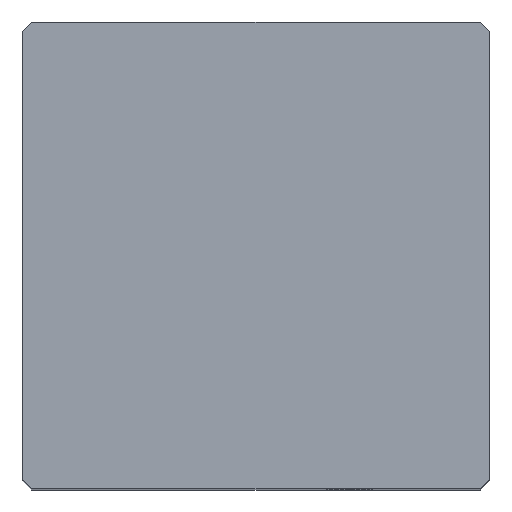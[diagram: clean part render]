
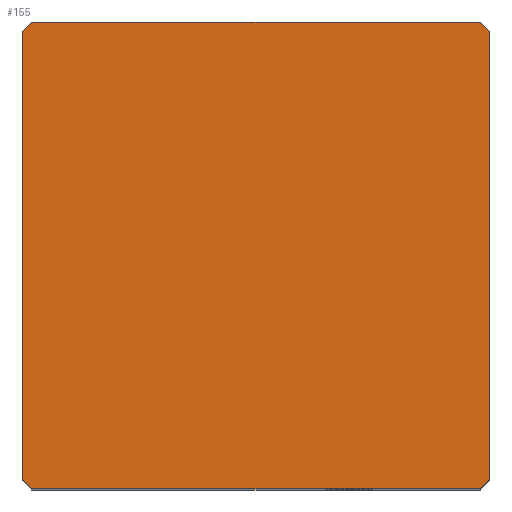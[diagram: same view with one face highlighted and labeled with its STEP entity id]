
A CAD part, top view. The second image highlights one B-rep face of the part: STEP entity #155.
In plain terms, the highlighted planar face has unit normal (0, 0, 1).
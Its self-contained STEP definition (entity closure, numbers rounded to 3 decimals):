
#39 = EDGE_CURVE('',#40,#42,#44,.T.);
#40 = VERTEX_POINT('',#41);
#41 = CARTESIAN_POINT('',(-10.,-9.6,29.25));
#42 = VERTEX_POINT('',#43);
#43 = CARTESIAN_POINT('',(-10.,9.6,29.25));
#44 = SURFACE_CURVE('',#45,(#49,#61),.PCURVE_S1.);
#45 = LINE('',#46,#47);
#46 = CARTESIAN_POINT('',(-10.,-10.,29.25));
#47 = VECTOR('',#48,1.);
#48 = DIRECTION('',(-0.,1.,0.));
#49 = PCURVE('',#50,#55);
#50 = PLANE('',#51);
#51 = AXIS2_PLACEMENT_3D('',#52,#53,#54);
#52 = CARTESIAN_POINT('',(-10.,-10.,0.));
#53 = DIRECTION('',(1.,0.,-0.));
#54 = DIRECTION('',(0.,0.,1.));
#55 = DEFINITIONAL_REPRESENTATION('',(#56),#60);
#56 = LINE('',#57,#58);
#57 = CARTESIAN_POINT('',(29.25,0.));
#58 = VECTOR('',#59,1.);
#59 = DIRECTION('',(0.,-1.));
#60 = ( GEOMETRIC_REPRESENTATION_CONTEXT(2) 
PARAMETRIC_REPRESENTATION_CONTEXT() REPRESENTATION_CONTEXT('2D SPACE',''
  ) );
#61 = PCURVE('',#62,#67);
#62 = PLANE('',#63);
#63 = AXIS2_PLACEMENT_3D('',#64,#65,#66);
#64 = CARTESIAN_POINT('',(-10.,-10.,29.25));
#65 = DIRECTION('',(0.,0.,1.));
#66 = DIRECTION('',(1.,0.,-0.));
#67 = DEFINITIONAL_REPRESENTATION('',(#68),#72);
#68 = LINE('',#69,#70);
#69 = CARTESIAN_POINT('',(0.,0.));
#70 = VECTOR('',#71,1.);
#71 = DIRECTION('',(0.,1.));
#72 = ( GEOMETRIC_REPRESENTATION_CONTEXT(2) 
PARAMETRIC_REPRESENTATION_CONTEXT() REPRESENTATION_CONTEXT('2D SPACE',''
  ) );
#90 = PLANE('',#91);
#91 = AXIS2_PLACEMENT_3D('',#92,#93,#94);
#92 = CARTESIAN_POINT('',(-9.8,-9.8,0.));
#93 = DIRECTION('',(-0.707,-0.707,0.));
#94 = DIRECTION('',(-0.,-0.,-1.));
#144 = PLANE('',#145);
#145 = AXIS2_PLACEMENT_3D('',#146,#147,#148);
#146 = CARTESIAN_POINT('',(-9.8,9.8,0.));
#147 = DIRECTION('',(0.707,-0.707,0.));
#148 = DIRECTION('',(-0.,-0.,-1.));
#155 = ADVANCED_FACE('',(#156),#62,.T.);
#156 = FACE_BOUND('',#157,.T.);
#157 = EDGE_LOOP('',(#158,#159,#182,#210,#238,#266,#294,#322));
#158 = ORIENTED_EDGE('',*,*,#39,.F.);
#159 = ORIENTED_EDGE('',*,*,#160,.T.);
#160 = EDGE_CURVE('',#40,#161,#163,.T.);
#161 = VERTEX_POINT('',#162);
#162 = CARTESIAN_POINT('',(-9.6,-10.,29.25));
#163 = SURFACE_CURVE('',#164,(#168,#175),.PCURVE_S1.);
#164 = LINE('',#165,#166);
#165 = CARTESIAN_POINT('',(-9.8,-9.8,29.25));
#166 = VECTOR('',#167,1.);
#167 = DIRECTION('',(0.707,-0.707,0.));
#168 = PCURVE('',#62,#169);
#169 = DEFINITIONAL_REPRESENTATION('',(#170),#174);
#170 = LINE('',#171,#172);
#171 = CARTESIAN_POINT('',(0.2,0.2));
#172 = VECTOR('',#173,1.);
#173 = DIRECTION('',(0.707,-0.707));
#174 = ( GEOMETRIC_REPRESENTATION_CONTEXT(2) 
PARAMETRIC_REPRESENTATION_CONTEXT() REPRESENTATION_CONTEXT('2D SPACE',''
  ) );
#175 = PCURVE('',#90,#176);
#176 = DEFINITIONAL_REPRESENTATION('',(#177),#181);
#177 = LINE('',#178,#179);
#178 = CARTESIAN_POINT('',(-29.25,0.));
#179 = VECTOR('',#180,1.);
#180 = DIRECTION('',(-0.,1.));
#181 = ( GEOMETRIC_REPRESENTATION_CONTEXT(2) 
PARAMETRIC_REPRESENTATION_CONTEXT() REPRESENTATION_CONTEXT('2D SPACE',''
  ) );
#182 = ORIENTED_EDGE('',*,*,#183,.T.);
#183 = EDGE_CURVE('',#161,#184,#186,.T.);
#184 = VERTEX_POINT('',#185);
#185 = CARTESIAN_POINT('',(9.6,-10.,29.25));
#186 = SURFACE_CURVE('',#187,(#191,#198),.PCURVE_S1.);
#187 = LINE('',#188,#189);
#188 = CARTESIAN_POINT('',(-10.,-10.,29.25));
#189 = VECTOR('',#190,1.);
#190 = DIRECTION('',(1.,0.,-0.));
#191 = PCURVE('',#62,#192);
#192 = DEFINITIONAL_REPRESENTATION('',(#193),#197);
#193 = LINE('',#194,#195);
#194 = CARTESIAN_POINT('',(0.,0.));
#195 = VECTOR('',#196,1.);
#196 = DIRECTION('',(1.,0.));
#197 = ( GEOMETRIC_REPRESENTATION_CONTEXT(2) 
PARAMETRIC_REPRESENTATION_CONTEXT() REPRESENTATION_CONTEXT('2D SPACE',''
  ) );
#198 = PCURVE('',#199,#204);
#199 = PLANE('',#200);
#200 = AXIS2_PLACEMENT_3D('',#201,#202,#203);
#201 = CARTESIAN_POINT('',(-10.,-10.,0.));
#202 = DIRECTION('',(-0.,1.,0.));
#203 = DIRECTION('',(0.,0.,1.));
#204 = DEFINITIONAL_REPRESENTATION('',(#205),#209);
#205 = LINE('',#206,#207);
#206 = CARTESIAN_POINT('',(29.25,0.));
#207 = VECTOR('',#208,1.);
#208 = DIRECTION('',(0.,1.));
#209 = ( GEOMETRIC_REPRESENTATION_CONTEXT(2) 
PARAMETRIC_REPRESENTATION_CONTEXT() REPRESENTATION_CONTEXT('2D SPACE',''
  ) );
#210 = ORIENTED_EDGE('',*,*,#211,.F.);
#211 = EDGE_CURVE('',#212,#184,#214,.T.);
#212 = VERTEX_POINT('',#213);
#213 = CARTESIAN_POINT('',(10.,-9.6,29.25));
#214 = SURFACE_CURVE('',#215,(#219,#226),.PCURVE_S1.);
#215 = LINE('',#216,#217);
#216 = CARTESIAN_POINT('',(4.8,-14.8,29.25));
#217 = VECTOR('',#218,1.);
#218 = DIRECTION('',(-0.707,-0.707,0.));
#219 = PCURVE('',#62,#220);
#220 = DEFINITIONAL_REPRESENTATION('',(#221),#225);
#221 = LINE('',#222,#223);
#222 = CARTESIAN_POINT('',(14.8,-4.8));
#223 = VECTOR('',#224,1.);
#224 = DIRECTION('',(-0.707,-0.707));
#225 = ( GEOMETRIC_REPRESENTATION_CONTEXT(2) 
PARAMETRIC_REPRESENTATION_CONTEXT() REPRESENTATION_CONTEXT('2D SPACE',''
  ) );
#226 = PCURVE('',#227,#232);
#227 = PLANE('',#228);
#228 = AXIS2_PLACEMENT_3D('',#229,#230,#231);
#229 = CARTESIAN_POINT('',(9.8,-9.8,0.));
#230 = DIRECTION('',(-0.707,0.707,0.));
#231 = DIRECTION('',(-0.,-0.,-1.));
#232 = DEFINITIONAL_REPRESENTATION('',(#233),#237);
#233 = LINE('',#234,#235);
#234 = CARTESIAN_POINT('',(-29.25,7.071));
#235 = VECTOR('',#236,1.);
#236 = DIRECTION('',(-0.,1.));
#237 = ( GEOMETRIC_REPRESENTATION_CONTEXT(2) 
PARAMETRIC_REPRESENTATION_CONTEXT() REPRESENTATION_CONTEXT('2D SPACE',''
  ) );
#238 = ORIENTED_EDGE('',*,*,#239,.T.);
#239 = EDGE_CURVE('',#212,#240,#242,.T.);
#240 = VERTEX_POINT('',#241);
#241 = CARTESIAN_POINT('',(10.,9.6,29.25));
#242 = SURFACE_CURVE('',#243,(#247,#254),.PCURVE_S1.);
#243 = LINE('',#244,#245);
#244 = CARTESIAN_POINT('',(10.,-10.,29.25));
#245 = VECTOR('',#246,1.);
#246 = DIRECTION('',(-0.,1.,0.));
#247 = PCURVE('',#62,#248);
#248 = DEFINITIONAL_REPRESENTATION('',(#249),#253);
#249 = LINE('',#250,#251);
#250 = CARTESIAN_POINT('',(20.,0.));
#251 = VECTOR('',#252,1.);
#252 = DIRECTION('',(0.,1.));
#253 = ( GEOMETRIC_REPRESENTATION_CONTEXT(2) 
PARAMETRIC_REPRESENTATION_CONTEXT() REPRESENTATION_CONTEXT('2D SPACE',''
  ) );
#254 = PCURVE('',#255,#260);
#255 = PLANE('',#256);
#256 = AXIS2_PLACEMENT_3D('',#257,#258,#259);
#257 = CARTESIAN_POINT('',(10.,-10.,0.));
#258 = DIRECTION('',(1.,0.,-0.));
#259 = DIRECTION('',(0.,0.,1.));
#260 = DEFINITIONAL_REPRESENTATION('',(#261),#265);
#261 = LINE('',#262,#263);
#262 = CARTESIAN_POINT('',(29.25,0.));
#263 = VECTOR('',#264,1.);
#264 = DIRECTION('',(0.,-1.));
#265 = ( GEOMETRIC_REPRESENTATION_CONTEXT(2) 
PARAMETRIC_REPRESENTATION_CONTEXT() REPRESENTATION_CONTEXT('2D SPACE',''
  ) );
#266 = ORIENTED_EDGE('',*,*,#267,.T.);
#267 = EDGE_CURVE('',#240,#268,#270,.T.);
#268 = VERTEX_POINT('',#269);
#269 = CARTESIAN_POINT('',(9.6,10.,29.25));
#270 = SURFACE_CURVE('',#271,(#275,#282),.PCURVE_S1.);
#271 = LINE('',#272,#273);
#272 = CARTESIAN_POINT('',(9.8,9.8,29.25));
#273 = VECTOR('',#274,1.);
#274 = DIRECTION('',(-0.707,0.707,0.));
#275 = PCURVE('',#62,#276);
#276 = DEFINITIONAL_REPRESENTATION('',(#277),#281);
#277 = LINE('',#278,#279);
#278 = CARTESIAN_POINT('',(19.8,19.8));
#279 = VECTOR('',#280,1.);
#280 = DIRECTION('',(-0.707,0.707));
#281 = ( GEOMETRIC_REPRESENTATION_CONTEXT(2) 
PARAMETRIC_REPRESENTATION_CONTEXT() REPRESENTATION_CONTEXT('2D SPACE',''
  ) );
#282 = PCURVE('',#283,#288);
#283 = PLANE('',#284);
#284 = AXIS2_PLACEMENT_3D('',#285,#286,#287);
#285 = CARTESIAN_POINT('',(9.8,9.8,0.));
#286 = DIRECTION('',(0.707,0.707,0.));
#287 = DIRECTION('',(-0.,0.,-1.));
#288 = DEFINITIONAL_REPRESENTATION('',(#289),#293);
#289 = LINE('',#290,#291);
#290 = CARTESIAN_POINT('',(-29.25,0.));
#291 = VECTOR('',#292,1.);
#292 = DIRECTION('',(-0.,1.));
#293 = ( GEOMETRIC_REPRESENTATION_CONTEXT(2) 
PARAMETRIC_REPRESENTATION_CONTEXT() REPRESENTATION_CONTEXT('2D SPACE',''
  ) );
#294 = ORIENTED_EDGE('',*,*,#295,.F.);
#295 = EDGE_CURVE('',#296,#268,#298,.T.);
#296 = VERTEX_POINT('',#297);
#297 = CARTESIAN_POINT('',(-9.6,10.,29.25));
#298 = SURFACE_CURVE('',#299,(#303,#310),.PCURVE_S1.);
#299 = LINE('',#300,#301);
#300 = CARTESIAN_POINT('',(-10.,10.,29.25));
#301 = VECTOR('',#302,1.);
#302 = DIRECTION('',(1.,0.,-0.));
#303 = PCURVE('',#62,#304);
#304 = DEFINITIONAL_REPRESENTATION('',(#305),#309);
#305 = LINE('',#306,#307);
#306 = CARTESIAN_POINT('',(0.,20.));
#307 = VECTOR('',#308,1.);
#308 = DIRECTION('',(1.,0.));
#309 = ( GEOMETRIC_REPRESENTATION_CONTEXT(2) 
PARAMETRIC_REPRESENTATION_CONTEXT() REPRESENTATION_CONTEXT('2D SPACE',''
  ) );
#310 = PCURVE('',#311,#316);
#311 = PLANE('',#312);
#312 = AXIS2_PLACEMENT_3D('',#313,#314,#315);
#313 = CARTESIAN_POINT('',(-10.,10.,0.));
#314 = DIRECTION('',(-0.,1.,0.));
#315 = DIRECTION('',(0.,0.,1.));
#316 = DEFINITIONAL_REPRESENTATION('',(#317),#321);
#317 = LINE('',#318,#319);
#318 = CARTESIAN_POINT('',(29.25,0.));
#319 = VECTOR('',#320,1.);
#320 = DIRECTION('',(0.,1.));
#321 = ( GEOMETRIC_REPRESENTATION_CONTEXT(2) 
PARAMETRIC_REPRESENTATION_CONTEXT() REPRESENTATION_CONTEXT('2D SPACE',''
  ) );
#322 = ORIENTED_EDGE('',*,*,#323,.F.);
#323 = EDGE_CURVE('',#42,#296,#324,.T.);
#324 = SURFACE_CURVE('',#325,(#329,#336),.PCURVE_S1.);
#325 = LINE('',#326,#327);
#326 = CARTESIAN_POINT('',(-14.8,4.8,29.25));
#327 = VECTOR('',#328,1.);
#328 = DIRECTION('',(0.707,0.707,-0.));
#329 = PCURVE('',#62,#330);
#330 = DEFINITIONAL_REPRESENTATION('',(#331),#335);
#331 = LINE('',#332,#333);
#332 = CARTESIAN_POINT('',(-4.8,14.8));
#333 = VECTOR('',#334,1.);
#334 = DIRECTION('',(0.707,0.707));
#335 = ( GEOMETRIC_REPRESENTATION_CONTEXT(2) 
PARAMETRIC_REPRESENTATION_CONTEXT() REPRESENTATION_CONTEXT('2D SPACE',''
  ) );
#336 = PCURVE('',#144,#337);
#337 = DEFINITIONAL_REPRESENTATION('',(#338),#342);
#338 = LINE('',#339,#340);
#339 = CARTESIAN_POINT('',(-29.25,-7.071));
#340 = VECTOR('',#341,1.);
#341 = DIRECTION('',(-0.,1.));
#342 = ( GEOMETRIC_REPRESENTATION_CONTEXT(2) 
PARAMETRIC_REPRESENTATION_CONTEXT() REPRESENTATION_CONTEXT('2D SPACE',''
  ) );
